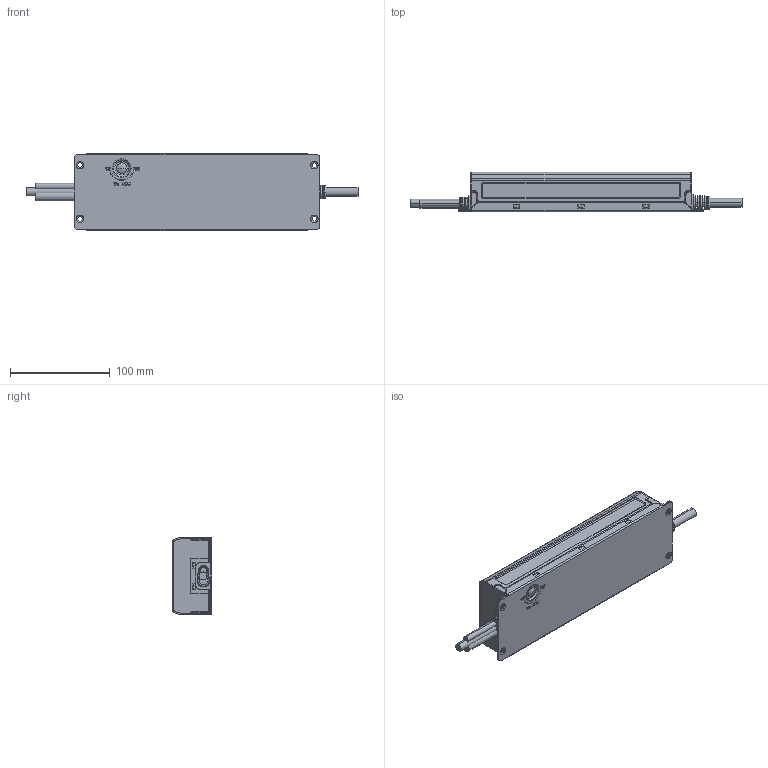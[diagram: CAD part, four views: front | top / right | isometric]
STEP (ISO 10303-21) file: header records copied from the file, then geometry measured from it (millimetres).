
FILE_DESCRIPTION((''),'2;1');
FILE_NAME('XLG-320_ASM','2022-03-01T11:30:00',('shalinice'),(''),'CREO PARAMETRIC BY PTC INC, 2016390','CREO PARAMETRIC BY PTC INC, 2016390','');
FILE_SCHEMA(('AUTOMOTIVE_DESIGN { 1 0 10303 214 1 1 1 1 }'));
Length unit declared in the file: millimetre
Products named in the file (9): 266D-D; ELGC-300A-T_2; OP_1_2_2; IP_1_1_2; OP2_1; WIRE_ASM_1_ASM; VRZHU_2; VRSAI_2; XLG-320_ASM
Assembly tree (8 placements, depth 3):
  XLG-320_ASM
    266D-D
    ELGC-300A-T_2
    WIRE_ASM_1_ASM
      OP_1_2_2
      IP_1_1_2
      OP2_1
    VRZHU_2
    VRSAI_2
Bounding box: 332.9 x 39.5 x 77.45 mm (x, y, z)
Volume: 95416.3 mm3; surface area: 142363.1 mm2
Topology: 7 solids, 7 shells, 1223 faces, 3225 edges, 2085 vertices
Faces by surface type: plane 735, cylinder 337, torus 97, bspline 28, cone 24, sphere 2
Entity records: 52171 total; most frequent: CARTESIAN_POINT 12321, DIRECTION 6463, ORIENTED_EDGE 6446, EDGE_CURVE 3223, AXIS2_PLACEMENT_3D 2159, VECTOR 2145, LINE 2145, VERTEX_POINT 2085
